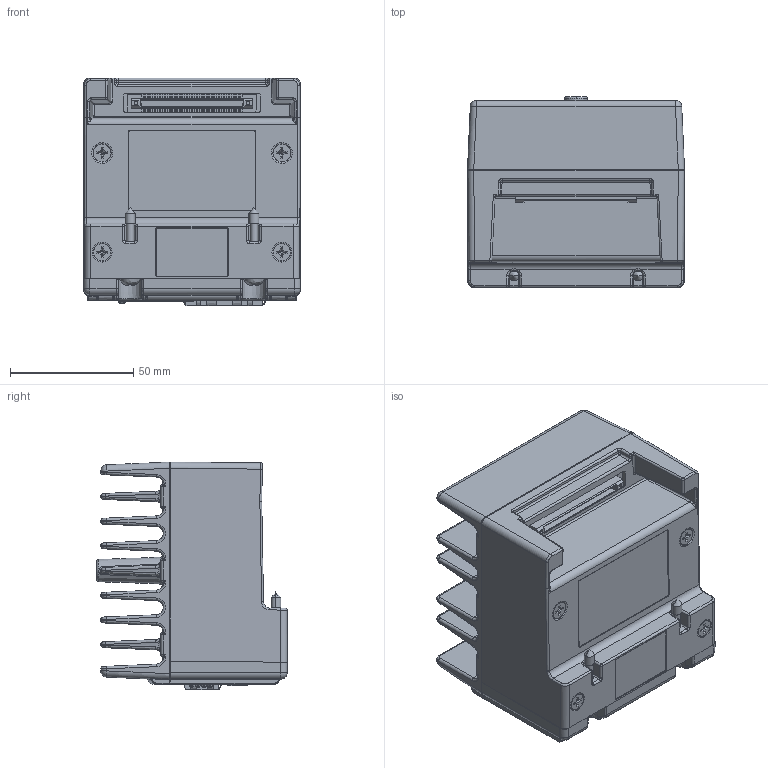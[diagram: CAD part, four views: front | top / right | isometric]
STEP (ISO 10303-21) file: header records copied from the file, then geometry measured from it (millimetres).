
FILE_DESCRIPTION((''),'2;1');
FILE_NAME('CU_CRIO_CONT_9052','2007-08-02T',('jpearson'),(''),'PRO/ENGINEER BY PARAMETRIC TECHNOLOGY CORPORATION, 2006080','PRO/ENGINEER BY PARAMETRIC TECHNOLOGY CORPORATION, 2006080','');
FILE_SCHEMA(('CONFIG_CONTROL_DESIGN'));
Products named in the file (1): CU_CRIO_CONT_9052
Bounding box: 88.11 x 77.32 x 92.53 mm (x, y, z)
Volume: 157019.3 mm3; surface area: 113482.7 mm2
Topology: 4 solids, 4 shells, 2633 faces, 6551 edges, 3913 vertices
Faces by surface type: plane 1161, cylinder 673, bspline 519, sphere 104, torus 82, cone 78, extrusion 16
Entity records: 108388 total; most frequent: CARTESIAN_POINT 50028, ORIENTED_EDGE 12894, DIRECTION 10819, EDGE_CURVE 6447, VERTEX_POINT 4027, VECTOR 3719, LINE 3703, AXIS2_PLACEMENT_3D 3550
